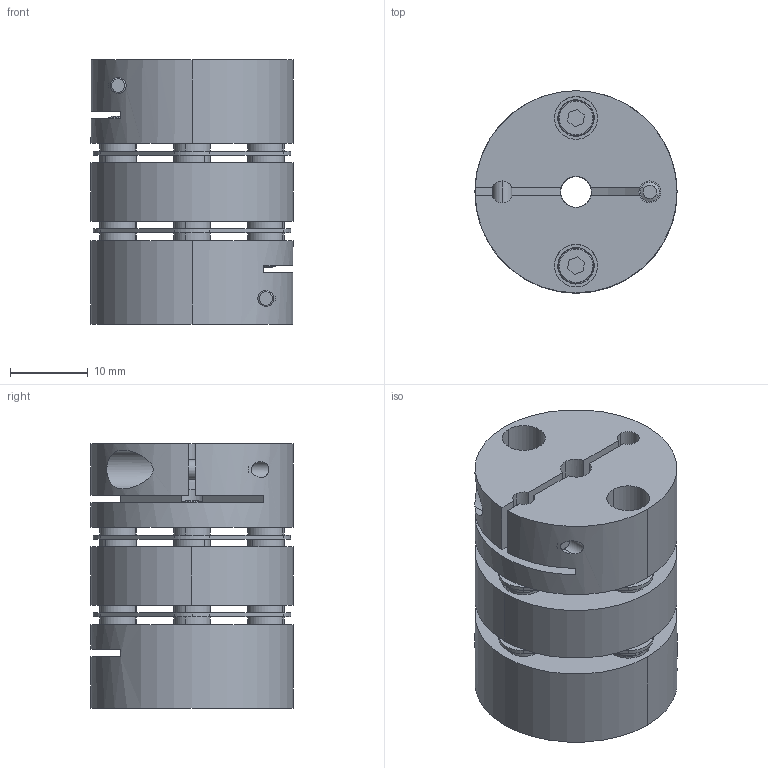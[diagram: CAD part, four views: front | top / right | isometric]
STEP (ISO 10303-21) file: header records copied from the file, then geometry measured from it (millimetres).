
FILE_DESCRIPTION (( 'STEP AP214' ), '1' );
FILE_NAME ('LC-A-020DA-4B-4B.STEP', '2019-09-12T07:14:45', ( 'admin' ), ( 'Microsoft' ), 'SwSTEP 2.0', 'SolidWorks 2016', '' );
FILE_SCHEMA (( 'AUTOMOTIVE_DESIGN' ));
Length unit declared in the file: millimetre
Products named in the file (1): LC-A-020DA-4B-4B
Bounding box: 26 x 26 x 34 mm (x, y, z)
Volume: 12915.5 mm3; surface area: 11466 mm2
Topology: 31 solids, 31 shells, 442 faces, 1022 edges, 660 vertices
Faces by surface type: cylinder 206, plane 176, torus 40, cone 20
Entity records: 18368 total; most frequent: CARTESIAN_POINT 2501, DIRECTION 2396, ORIENTED_EDGE 2044, EDGE_CURVE 1022, AXIS2_PLACEMENT_3D 955, VERTEX_POINT 660, EDGE_LOOP 554, CIRCLE 512
